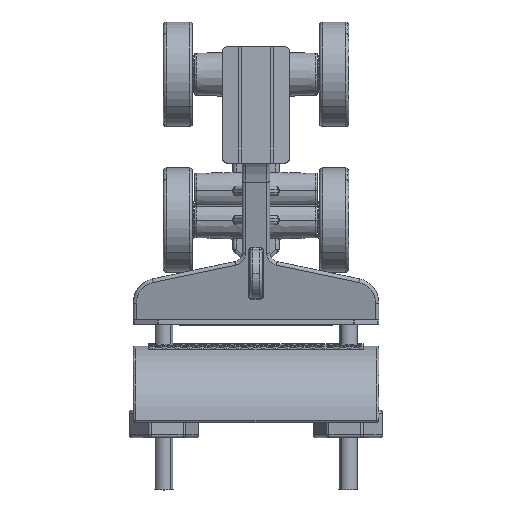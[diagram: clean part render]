
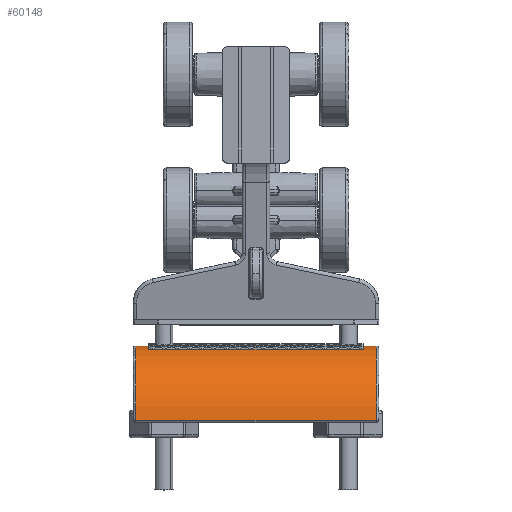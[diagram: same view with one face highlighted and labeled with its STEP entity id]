
A CAD part, top view. The second image highlights one B-rep face of the part: STEP entity #60148.
In plain terms, the highlighted cylindrical face has radius 25 mm (diameter 50 mm), a partial arc.
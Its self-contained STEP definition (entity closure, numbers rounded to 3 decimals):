
#82 = EDGE_LOOP ( 'NONE', ( #4633, #42308, #44671, #20498 ) ) ;
#2378 = EDGE_CURVE ( 'NONE', #49701, #13061, #32876, .T. ) ;
#3092 = EDGE_CURVE ( 'NONE', #97039, #22573, #17108, .T. ) ;
#4633 = ORIENTED_EDGE ( 'NONE', *, *, #10576, .T. ) ;
#6601 = DIRECTION ( 'NONE',  ( 0., 0., -1. ) ) ;
#7787 = AXIS2_PLACEMENT_3D ( 'NONE', #31638, #39398, #47818 ) ;
#9449 = DIRECTION ( 'NONE',  ( 0., 0., 1. ) ) ;
#10576 = EDGE_CURVE ( 'NONE', #76163, #97039, #78007, .T. ) ;
#13061 = VERTEX_POINT ( 'NONE', #43295 ) ;
#14187 = LINE ( 'NONE', #93608, #81914 ) ;
#16275 = EDGE_LOOP ( 'NONE', ( #66297, #84028, #76859, #95569 ) ) ;
#17108 = CIRCLE ( 'NONE', #21315, 25. ) ;
#20311 = EDGE_CURVE ( 'NONE', #22573, #57292, #14187, .T. ) ;
#20498 = ORIENTED_EDGE ( 'NONE', *, *, #69444, .T. ) ;
#21315 = AXIS2_PLACEMENT_3D ( 'NONE', #94797, #48528, #48199 ) ;
#22416 = LINE ( 'NONE', #92967, #58698 ) ;
#22573 = VERTEX_POINT ( 'NONE', #96547 ) ;
#28967 = EDGE_CURVE ( 'NONE', #13061, #73740, #40085, .T. ) ;
#30756 = CARTESIAN_POINT ( 'NONE',  ( 24.988, 0.773, -39.25 ) ) ;
#31638 = CARTESIAN_POINT ( 'NONE',  ( 0., 0., 40. ) ) ;
#32876 = CIRCLE ( 'NONE', #97662, 25. ) ;
#34472 = CARTESIAN_POINT ( 'NONE',  ( 0., 0., -39.25 ) ) ;
#36427 = VERTEX_POINT ( 'NONE', #55220 ) ;
#37970 = CARTESIAN_POINT ( 'NONE',  ( 0., 0., 35. ) ) ;
#39398 = DIRECTION ( 'NONE',  ( 0., 0., -1. ) ) ;
#40085 = LINE ( 'NONE', #84548, #71483 ) ;
#41395 = CARTESIAN_POINT ( 'NONE',  ( -24.988, 0.773, 39.25 ) ) ;
#42308 = ORIENTED_EDGE ( 'NONE', *, *, #3092, .T. ) ;
#43295 = CARTESIAN_POINT ( 'NONE',  ( -24.988, 0.773, -39.25 ) ) ;
#44671 = ORIENTED_EDGE ( 'NONE', *, *, #20311, .T. ) ;
#45708 = DIRECTION ( 'NONE',  ( 0., 0., 1. ) ) ;
#47415 = CARTESIAN_POINT ( 'NONE',  ( -7.5, 23.848, -35. ) ) ;
#47818 = DIRECTION ( 'NONE',  ( -1., 0., 0. ) ) ;
#48051 = CARTESIAN_POINT ( 'NONE',  ( 0., 0., 39.25 ) ) ;
#48199 = DIRECTION ( 'NONE',  ( -1., 0., 0. ) ) ;
#48528 = DIRECTION ( 'NONE',  ( 0., 0., -1. ) ) ;
#49701 = VERTEX_POINT ( 'NONE', #30756 ) ;
#50713 = CIRCLE ( 'NONE', #79718, 25. ) ;
#55220 = CARTESIAN_POINT ( 'NONE',  ( 24.988, 0.773, 39.25 ) ) ;
#55565 = FACE_OUTER_BOUND ( 'NONE', #16275, .T. ) ;
#57292 = VERTEX_POINT ( 'NONE', #78031 ) ;
#58698 = VECTOR ( 'NONE', #62268, 1000. ) ;
#59167 = CARTESIAN_POINT ( 'NONE',  ( -7.5, 23.848, 35. ) ) ;
#60148 = ADVANCED_FACE ( 'NONE', ( #55565, #65264 ), #70116, .T. ) ;
#62268 = DIRECTION ( 'NONE',  ( 0., 0., -1. ) ) ;
#64199 = EDGE_CURVE ( 'NONE', #36427, #49701, #22416, .T. ) ;
#65264 = FACE_BOUND ( 'NONE', #82, .T. ) ;
#66297 = ORIENTED_EDGE ( 'NONE', *, *, #64199, .T. ) ;
#68690 = AXIS2_PLACEMENT_3D ( 'NONE', #37970, #45708, #99731 ) ;
#69444 = EDGE_CURVE ( 'NONE', #57292, #76163, #98155, .T. ) ;
#70116 = CYLINDRICAL_SURFACE ( 'NONE', #7787, 25. ) ;
#70723 = EDGE_CURVE ( 'NONE', #73740, #36427, #50713, .T. ) ;
#71483 = VECTOR ( 'NONE', #76470, 1000. ) ;
#73740 = VERTEX_POINT ( 'NONE', #41395 ) ;
#76163 = VERTEX_POINT ( 'NONE', #59167 ) ;
#76470 = DIRECTION ( 'NONE',  ( 0., 0., 1. ) ) ;
#76859 = ORIENTED_EDGE ( 'NONE', *, *, #28967, .T. ) ;
#78007 = LINE ( 'NONE', #90408, #93723 ) ;
#78031 = CARTESIAN_POINT ( 'NONE',  ( 7.5, 23.848, 35. ) ) ;
#79107 = DIRECTION ( 'NONE',  ( -1., 0., 0. ) ) ;
#79718 = AXIS2_PLACEMENT_3D ( 'NONE', #48051, #94322, #79107 ) ;
#80362 = DIRECTION ( 'NONE',  ( -1., 0., 0. ) ) ;
#81914 = VECTOR ( 'NONE', #9449, 1000. ) ;
#84028 = ORIENTED_EDGE ( 'NONE', *, *, #2378, .T. ) ;
#84548 = CARTESIAN_POINT ( 'NONE',  ( -24.988, 0.773, 40. ) ) ;
#88081 = DIRECTION ( 'NONE',  ( 0., 0., 1. ) ) ;
#90408 = CARTESIAN_POINT ( 'NONE',  ( -7.5, 23.848, 40. ) ) ;
#92967 = CARTESIAN_POINT ( 'NONE',  ( 24.988, 0.773, 40. ) ) ;
#93608 = CARTESIAN_POINT ( 'NONE',  ( 7.5, 23.848, 40. ) ) ;
#93723 = VECTOR ( 'NONE', #6601, 1000. ) ;
#94322 = DIRECTION ( 'NONE',  ( 0., 0., -1. ) ) ;
#94797 = CARTESIAN_POINT ( 'NONE',  ( 0., 0., -35. ) ) ;
#95569 = ORIENTED_EDGE ( 'NONE', *, *, #70723, .T. ) ;
#96547 = CARTESIAN_POINT ( 'NONE',  ( 7.5, 23.848, -35. ) ) ;
#97039 = VERTEX_POINT ( 'NONE', #47415 ) ;
#97662 = AXIS2_PLACEMENT_3D ( 'NONE', #34472, #88081, #80362 ) ;
#98155 = CIRCLE ( 'NONE', #68690, 25. ) ;
#99731 = DIRECTION ( 'NONE',  ( -1., 0., 0. ) ) ;
